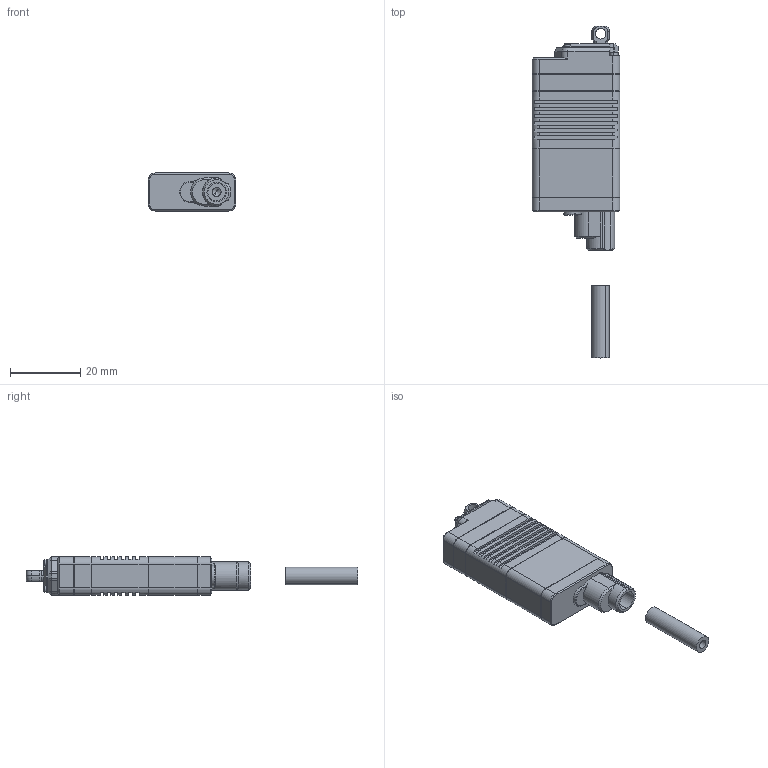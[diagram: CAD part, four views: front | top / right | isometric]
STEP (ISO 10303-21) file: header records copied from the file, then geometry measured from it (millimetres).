
FILE_DESCRIPTION (( 'STEP AP203' ), '1' );
FILE_NAME ('LAS30-0x3D-ACBO-S30.STEP', '2021-11-26T11:01:52', ( '' ), ( '' ), 'SwSTEP 2.0', 'SolidWorks 2021', '' );
FILE_SCHEMA (( 'CONFIG_CONTROL_DESIGN' ));
Length unit declared in the file: millimetre
Products named in the file (7): ACBO-S30.STEP; LAS30-0x3D-ACBO-S30; LAS30-0x3D^LAS30-0x3D-ACBO-S30.STEP; exA820116-015_______________.STEP; LAS30-0x3D-ACBO-S30.STEP; AS820110-010-B1________.STEP; SS1x3_____________.STEP
Assembly tree (7 placements, depth 3):
  LAS30-0x3D-ACBO-S30
    LAS30-0x3D-ACBO-S30.STEP
      exA820116-015_______________.STEP
      AS820110-010-B1________.STEP
      SS1x3_____________.STEP  x2
      ACBO-S30.STEP
      LAS30-0x3D^LAS30-0x3D-ACBO-S30.STEP
Bounding box: 24.8 x 94.2 x 10.8 mm (x, y, z)
Volume: 12357.9 mm3; surface area: 5833.5 mm2
Topology: 6 solids, 6 shells, 406 faces, 1017 edges, 628 vertices
Faces by surface type: plane 233, cylinder 99, cone 64, torus 10
Entity records: 12134 total; most frequent: CARTESIAN_POINT 2208, DIRECTION 1978, ORIENTED_EDGE 1894, EDGE_CURVE 947, AXIS2_PLACEMENT_3D 693, LINE 592, VECTOR 592, VERTEX_POINT 586
